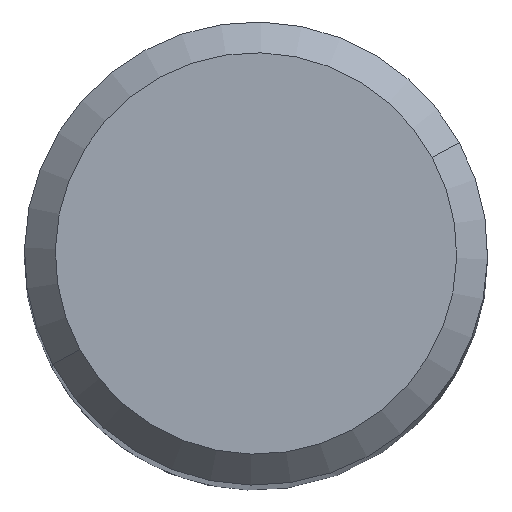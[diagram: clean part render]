
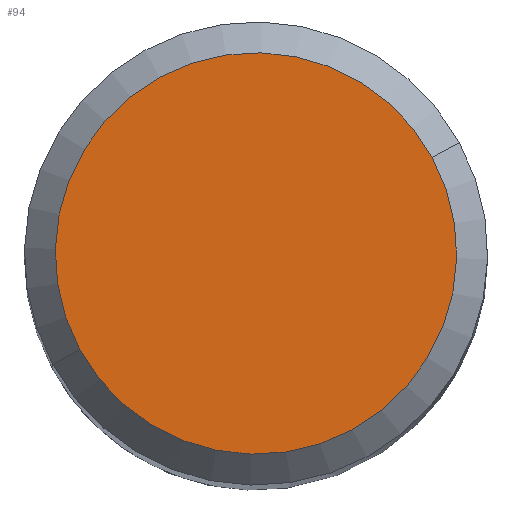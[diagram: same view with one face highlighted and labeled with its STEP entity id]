
A CAD part, top view. The second image highlights one B-rep face of the part: STEP entity #94.
In plain terms, the highlighted planar face has unit normal (0, 0, 1).
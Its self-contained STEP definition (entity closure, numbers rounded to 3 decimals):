
#74=AXIS2_PLACEMENT_3D('Plane Axis2P3D',#71,#72,#73) ;
#78=AXIS2_PLACEMENT_3D('Circle Axis2P3D',#76,#77,$) ;
#87=AXIS2_PLACEMENT_3D('Circle Axis2P3D',#85,#86,$) ;
#71=CARTESIAN_POINT('Axis2P3D Location',(2.6,0.,48.)) ;
#76=CARTESIAN_POINT('Axis2P3D Location',(0.,0.,48.)) ;
#80=CARTESIAN_POINT('Vertex',(2.282,1.247,48.)) ;
#82=CARTESIAN_POINT('Vertex',(-2.282,-1.247,48.)) ;
#85=CARTESIAN_POINT('Axis2P3D Location',(0.,0.,48.)) ;
#72=DIRECTION('Axis2P3D Direction',(0.,0.,1.)) ;
#73=DIRECTION('Axis2P3D XDirection',(1.,0.,0.)) ;
#77=DIRECTION('Axis2P3D Direction',(0.,0.,1.)) ;
#86=DIRECTION('Axis2P3D Direction',(0.,0.,1.)) ;
#91=ORIENTED_EDGE('',*,*,#84,.T.) ;
#92=ORIENTED_EDGE('',*,*,#89,.T.) ;
#94=ADVANCED_FACE('NOCUT',(#93),#75,.T.) ;
#79=CIRCLE('generated circle',#78,2.6) ;
#88=CIRCLE('generated circle',#87,2.6) ;
#84=EDGE_CURVE('',#81,#83,#79,.T.) ;
#89=EDGE_CURVE('',#83,#81,#88,.T.) ;
#90=EDGE_LOOP('',(#91,#92)) ;
#93=FACE_OUTER_BOUND('',#90,.T.) ;
#75=PLANE('',#74) ;
#81=VERTEX_POINT('',#80) ;
#83=VERTEX_POINT('',#82) ;
